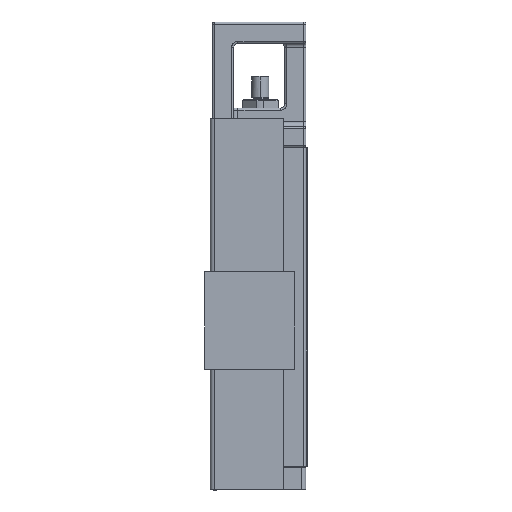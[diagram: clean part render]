
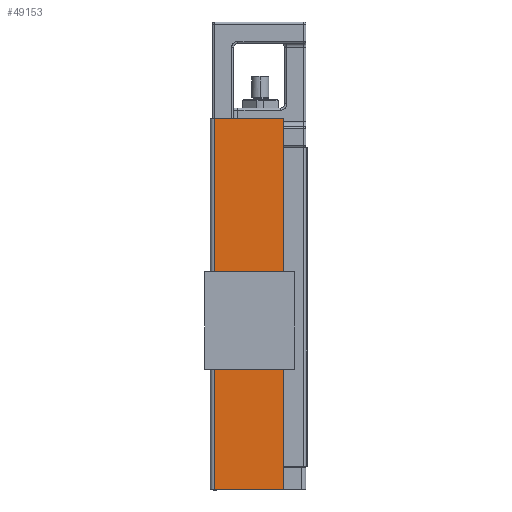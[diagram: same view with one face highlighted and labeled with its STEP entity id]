
A CAD part, left-side view. The second image highlights one B-rep face of the part: STEP entity #49153.
In plain terms, the highlighted planar face has unit normal (-1, 0, 0).
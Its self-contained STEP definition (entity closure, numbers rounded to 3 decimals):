
#224 = DIRECTION ( 'NONE',  ( 0., -1., 0. ) ) ;
#2161 = DIRECTION ( 'NONE',  ( -1., 0., 0. ) ) ;
#3681 = VERTEX_POINT ( 'NONE', #19190 ) ;
#4758 = DIRECTION ( 'NONE',  ( 0., 0., -1. ) ) ;
#9333 = VECTOR ( 'NONE', #224, 1000. ) ;
#11189 = CARTESIAN_POINT ( 'NONE',  ( -51., 11., -161. ) ) ;
#11848 = AXIS2_PLACEMENT_3D ( 'NONE', #48474, #2161, #34822 ) ;
#14159 = VERTEX_POINT ( 'NONE', #38072 ) ;
#18599 = VECTOR ( 'NONE', #29267, 1000. ) ;
#18867 = CARTESIAN_POINT ( 'NONE',  ( -51., 44.5, 13.5 ) ) ;
#18949 = LINE ( 'NONE', #59493, #18599 ) ;
#19190 = CARTESIAN_POINT ( 'NONE',  ( -51., 43.5, -161. ) ) ;
#20387 = EDGE_CURVE ( 'NONE', #24692, #3681, #45075, .T. ) ;
#21169 = EDGE_CURVE ( 'NONE', #27899, #14159, #40706, .T. ) ;
#24692 = VERTEX_POINT ( 'NONE', #55883 ) ;
#25487 = PLANE ( 'NONE',  #11848 ) ;
#27899 = VERTEX_POINT ( 'NONE', #11189 ) ;
#29267 = DIRECTION ( 'NONE',  ( 0., -1., 0. ) ) ;
#32760 = CARTESIAN_POINT ( 'NONE',  ( -51., 43.5, -0.8 ) ) ;
#34822 = DIRECTION ( 'NONE',  ( 0., 0., 1. ) ) ;
#35191 = EDGE_CURVE ( 'NONE', #3681, #27899, #18949, .T. ) ;
#38072 = CARTESIAN_POINT ( 'NONE',  ( -51., 11., 13.5 ) ) ;
#38142 = EDGE_LOOP ( 'NONE', ( #47266, #45842, #45034, #41830 ) ) ;
#40706 = LINE ( 'NONE', #46181, #41229 ) ;
#41229 = VECTOR ( 'NONE', #46568, 1000. ) ;
#41830 = ORIENTED_EDGE ( 'NONE', *, *, #35191, .T. ) ;
#44844 = VECTOR ( 'NONE', #4758, 1000. ) ;
#44937 = LINE ( 'NONE', #18867, #9333 ) ;
#45034 = ORIENTED_EDGE ( 'NONE', *, *, #20387, .T. ) ;
#45075 = LINE ( 'NONE', #32760, #44844 ) ;
#45842 = ORIENTED_EDGE ( 'NONE', *, *, #47476, .F. ) ;
#46181 = CARTESIAN_POINT ( 'NONE',  ( -51., 11., -0.8 ) ) ;
#46568 = DIRECTION ( 'NONE',  ( 0., 0., 1. ) ) ;
#47266 = ORIENTED_EDGE ( 'NONE', *, *, #21169, .T. ) ;
#47476 = EDGE_CURVE ( 'NONE', #24692, #14159, #44937, .T. ) ;
#48474 = CARTESIAN_POINT ( 'NONE',  ( -51., 48., -0.8 ) ) ;
#49153 = ADVANCED_FACE ( 'NONE', ( #56260 ), #25487, .T. ) ;
#55883 = CARTESIAN_POINT ( 'NONE',  ( -51., 43.5, 13.5 ) ) ;
#56260 = FACE_OUTER_BOUND ( 'NONE', #38142, .T. ) ;
#59493 = CARTESIAN_POINT ( 'NONE',  ( -51., 22., -161. ) ) ;
